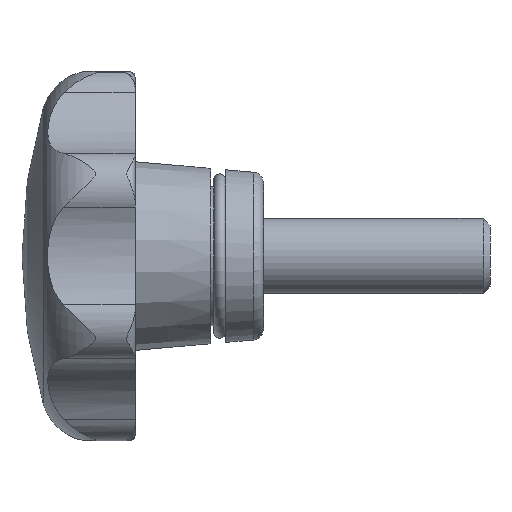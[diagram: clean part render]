
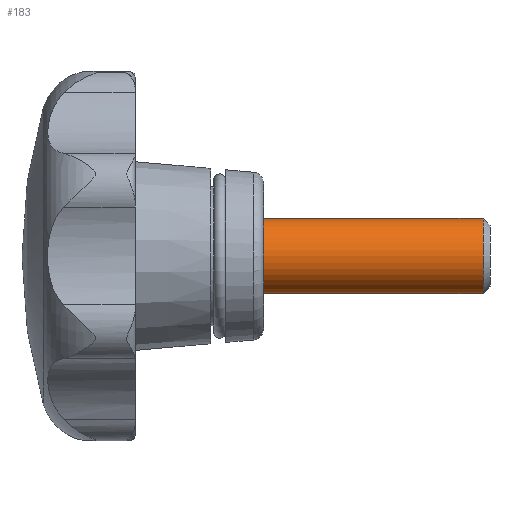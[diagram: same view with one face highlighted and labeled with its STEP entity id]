
A CAD part, left-side view. The second image highlights one B-rep face of the part: STEP entity #183.
In plain terms, the highlighted cylindrical face has radius 5 mm (diameter 10 mm), a full revolution.
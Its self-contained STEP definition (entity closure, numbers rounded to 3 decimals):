
#183 = ADVANCED_FACE( '', ( #346, #347 ), #348, .T. );
#346 = FACE_OUTER_BOUND( '', #669, .T. );
#347 = FACE_OUTER_BOUND( '', #670, .T. );
#348 = CYLINDRICAL_SURFACE( '', #671, 5. );
#669 = EDGE_LOOP( '', ( #1033 ) );
#670 = EDGE_LOOP( '', ( #1034 ) );
#671 = AXIS2_PLACEMENT_3D( '', #1035, #1036, #1037 );
#1033 = ORIENTED_EDGE( '', *, *, #1994, .F. );
#1034 = ORIENTED_EDGE( '', *, *, #1995, .T. );
#1035 = CARTESIAN_POINT( '', ( 0., -30., 0. ) );
#1036 = DIRECTION( '', ( 0., 1., 0. ) );
#1037 = DIRECTION( '', ( 0., 0., -1. ) );
#1994 = EDGE_CURVE( '', #2327, #2327, #2328, .T. );
#1995 = EDGE_CURVE( '', #2329, #2329, #2330, .T. );
#2327 = VERTEX_POINT( '', #2933 );
#2328 = CIRCLE( '', #2934, 5. );
#2329 = VERTEX_POINT( '', #2935 );
#2330 = CIRCLE( '', #2936, 5. );
#2933 = CARTESIAN_POINT( '', ( 0., -29.08, -5. ) );
#2934 = AXIS2_PLACEMENT_3D( '', #4430, #4431, #4432 );
#2935 = CARTESIAN_POINT( '', ( 0., 0., -5. ) );
#2936 = AXIS2_PLACEMENT_3D( '', #4433, #4434, #4435 );
#4430 = CARTESIAN_POINT( '', ( 0., -29.08, 0. ) );
#4431 = DIRECTION( '', ( 0., -1., 0. ) );
#4432 = DIRECTION( '', ( 0., 0., -1. ) );
#4433 = CARTESIAN_POINT( '', ( 0., 0., 0. ) );
#4434 = DIRECTION( '', ( 0., -1., 0. ) );
#4435 = DIRECTION( '', ( 0., 0., -1. ) );
